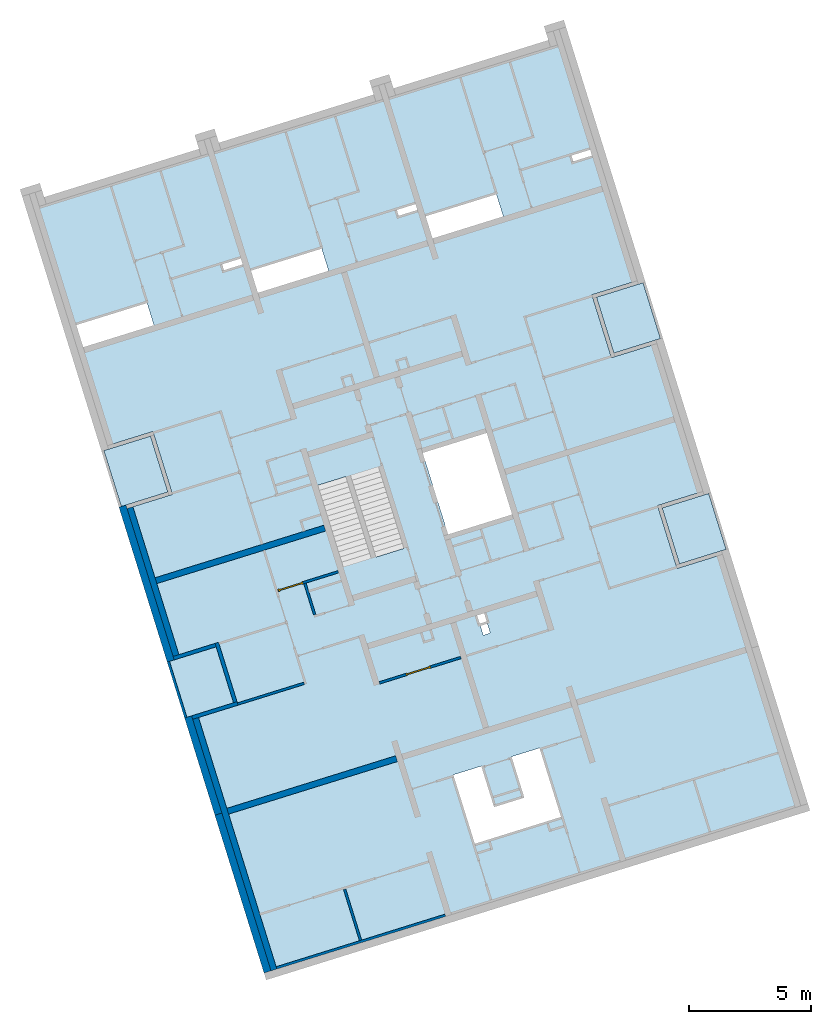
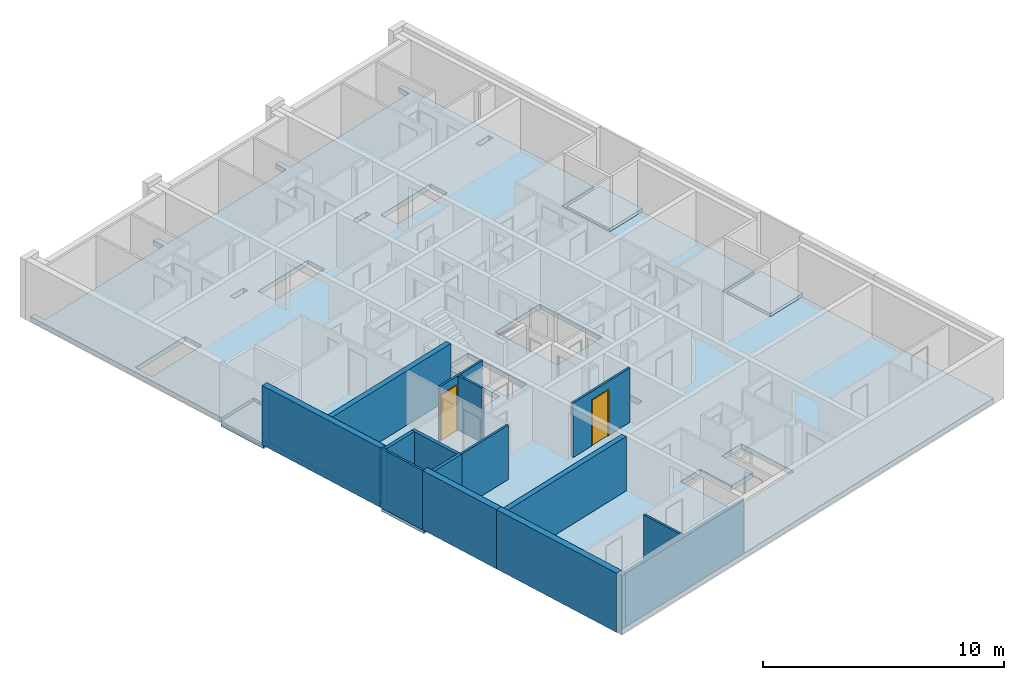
# One storey, part 1 of 12: 17 walls, 5 slabs, 2 doors, 12 openings.
"""IFC4 building model written with IfcOpenShell, lengths in metres."""

from ifc_helpers import new_model, entity, si_unit, converted_unit, direction, frame, origin, place, context, subcontext, project, spatial, indexed_curve, outline, extrude, polygons, source, transform, mapped, material, constituent, constituent_set, type_object, type_shapes, element, fill, save


model = new_model("IFC4")

# Units and contexts
model_context = context("Model", 3, precision=1e-05, world=origin(), true_north=direction((6.12323399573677e-17, 1.0)))
body_context = subcontext(model_context, "Body", "Model", "MODEL_VIEW")
ifc_project = project(units=[si_unit("LENGTHUNIT", "METRE"), si_unit("AREAUNIT", "SQUARE_METRE"), converted_unit("PLANEANGLEUNIT", "DEGREE", entity("IfcPlaneAngleMeasure", 0.0174532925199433), si_unit("PLANEANGLEUNIT", "RADIAN"), dimensions=[0, 0, 0, 0, 0, 0, 0]), si_unit("VOLUMEUNIT", "CUBIC_METRE")], contexts=[model_context])

# Site, building, storey
site_placement = place(None, frame((13.1347999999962, 11.9886000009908, 0.0), z_axis=(0.0, 0.0, 1.0), x_axis=(0.954770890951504, 0.297342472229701, 0.0)))
site = spatial("IfcSite", under=ifc_project, at=site_placement, Name="Schiehaven", CompositionType="ELEMENT")
building_placement = place(site_placement, origin())
building = spatial("IfcBuilding", under=site, at=building_placement, Name="VORM huis", CompositionType="ELEMENT")
storey_placement = place(building_placement, frame((0.0, 0.0, 3.9)))
storey = spatial("IfcBuildingStorey", under=building, at=storey_placement, Name="01 eerste verdieping", CompositionType="ELEMENT", Elevation=3.9)

# Slab, openings
ifc_material_1 = material(Name="beton_gewapend_ihw", Category="Miscellaneous")
slab_type_1 = type_object("IfcSlabType", Name="Floor:28_FL_skelet_vloer 250mm", PredefinedType="FLOOR", material=ifc_material_1)
slab_1_placement = place(storey_placement, origin())
slab_1 = element("IfcSlab", 1, at=slab_1_placement, inside=storey, type_object=slab_type_1, material=ifc_material_1, Name="Constructieve vloer", ObjectType="Vloer", PredefinedType="FLOOR", context=body_context, shape_type="SweptSolid", body=[
    extrude(outline(indexed_curve([(-22.8156249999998, -11.3750000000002), (-12.0156249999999, -11.3750000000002), (-12.0156249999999, -9.4250000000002), (-9.31562499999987, -9.42500000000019), (-9.31562499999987, -11.3750000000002), (-2.96562499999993, -11.3750000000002), (-2.96562499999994, -9.42500000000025), (-0.265624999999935, -9.42500000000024), (-0.265624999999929, -11.3750000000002), (10.5343750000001, -11.3750000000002), (10.5343750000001, -11.1249999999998), (9.934375, -11.1249999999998), (9.934375, -3.87499999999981), (10.534375, -3.87499999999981), (10.534375, -3.62499999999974), (9.93437499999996, -3.62499999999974), (9.93437499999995, 3.62500000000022), (10.5343749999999, 3.62500000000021), (10.534375, 3.87500000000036), (9.93437499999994, 3.87500000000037), (9.93437499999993, 11.1250000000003), (10.5343749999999, 11.1250000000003), (10.5343749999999, 11.3750000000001), (-0.265625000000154, 11.3750000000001), (-0.265625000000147, 9.42499999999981), (-2.96562500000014, 9.4249999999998), (-2.96562500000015, 11.3749999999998), (-9.31562500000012, 11.3749999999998), (-9.31562500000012, 9.42499999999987), (-12.0156250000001, 9.42499999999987), (-12.0156250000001, 11.3749999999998), (-22.8156249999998, 11.3749999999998), (-22.8156249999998, -11.3750000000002)], self_intersect=False), holes=[indexed_curve([(-7.89062500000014, -3.62500000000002), (-7.89062500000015, -0.875000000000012), (-4.39062500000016, -0.875000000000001), (-4.39062500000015, -3.62500000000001), (-7.89062500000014, -3.62500000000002)], self_intersect=False), indexed_curve([(-4.600625, 2.22499999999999), (-4.600625, 1.02499999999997), (-7.900625, 1.02499999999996), (-7.90062500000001, 2.22499999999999), (-4.600625, 2.22499999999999)], self_intersect=False), indexed_curve([(-7.68062500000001, 3.62499999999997), (-4.38062500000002, 3.62499999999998), (-4.38062500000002, 2.425), (-7.68062500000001, 2.42499999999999), (-7.68062500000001, 3.62499999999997)], self_intersect=False), indexed_curve([(-11.415625, -1.02499999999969), (-11.415625, -1.32499999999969), (-12.265625, -1.32499999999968), (-12.265625, -1.02499999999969), (-11.415625, -1.02499999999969)], self_intersect=False), indexed_curve([(5.18437499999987, -2.82499999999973), (5.43437499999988, -2.82499999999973), (5.43437499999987, -3.62499999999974), (5.18437499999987, -3.62499999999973), (5.18437499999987, -2.82499999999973)], self_intersect=False), indexed_curve([(5.18437499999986, -10.3249999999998), (5.43437499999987, -10.3249999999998), (5.43437499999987, -11.1249999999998), (5.18437499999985, -11.1249999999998), (5.18437499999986, -10.3249999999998)], self_intersect=False), indexed_curve([(5.18437499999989, 4.67500000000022), (5.4343749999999, 4.67500000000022), (5.43437499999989, 3.87500000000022), (5.18437499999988, 3.87500000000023), (5.18437499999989, 4.67500000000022)], self_intersect=False), indexed_curve([(4.83437499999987, 3.62500000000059), (4.83437499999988, 0.587000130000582), (3.88437499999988, 0.587000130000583), (3.88437499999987, 3.62500000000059), (4.83437499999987, 3.62500000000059)], self_intersect=False), indexed_curve([(4.83437499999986, -3.87499999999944), (4.83437499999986, -6.91299986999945), (3.88437499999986, -6.91299986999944), (3.88437499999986, -3.87499999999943), (4.83437499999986, -3.87499999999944)], self_intersect=False), indexed_curve([(4.83437499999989, 11.1250000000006), (4.83437499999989, 8.08700013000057), (3.8843749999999, 8.08700013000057), (3.88437499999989, 11.1250000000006), (4.83437499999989, 11.1250000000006)], self_intersect=False), indexed_curve([(-20.3256249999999, 1.84999999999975), (-17.3656249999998, 1.84999999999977), (-17.3656249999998, 0.649999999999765), (-19.1256249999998, 0.649999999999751), (-19.1256249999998, -0.650000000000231), (-17.3656249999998, -0.650000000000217), (-17.3656249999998, -1.85000000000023), (-20.3256249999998, -1.85000000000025), (-20.3256249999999, 1.84999999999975)], self_intersect=False)]), frame((68.7500000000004, 23.1906249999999, -0.249999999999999), z_axis=(0.0, 0.0, 1.0), x_axis=(0.0, 1.0, 0.0)), (0.0, 0.0, 1.0), 0.25),
])
opening_1_placement = place(slab_1_placement, origin())
element("IfcOpeningElement", 2, at=opening_1_placement, cuts=slab_1, Name="Constructieve vloer", PredefinedType="OPENING", context=body_context, shape_type="SweptSolid", body=[
    extrude(outline(indexed_curve([(-1.75, -1.375), (1.75, -1.375), (1.75, 1.37500000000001), (-1.75, 1.37500000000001), (-1.75, -1.375)], self_intersect=False)), frame((71.0, 17.0499999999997, -0.25), z_axis=(0.0, 0.0, 1.0), x_axis=(0.0, 1.0, 0.0)), (0.0, 0.0, 1.0), 0.25),
])
opening_2_placement = place(slab_1_placement, origin())
element("IfcOpeningElement", 3, at=opening_2_placement, cuts=slab_1, Name="Constructieve vloer", PredefinedType="OPENING", context=body_context, shape_type="SweptSolid", body=[
    extrude(outline(indexed_curve([(-1.65, -0.600000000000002), (1.65000000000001, -0.599999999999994), (1.65000000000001, 0.60000000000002), (-1.65, 0.600000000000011), (-1.65, -0.600000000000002)], self_intersect=False)), frame((67.1250000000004, 16.9399999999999, -0.25), z_axis=(0.0, 0.0, 1.0), x_axis=(0.0, -1.0, 0.0)), (0.0, 0.0, 1.0), 0.25),
])
opening_3_placement = place(slab_1_placement, origin())
element("IfcOpeningElement", 4, at=opening_3_placement, cuts=slab_1, Name="Constructieve vloer", PredefinedType="OPENING", context=body_context, shape_type="SweptSolid", body=[
    extrude(outline(indexed_curve([(-0.425000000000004, -0.150000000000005), (0.425000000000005, -0.150000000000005), (0.425000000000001, 0.149999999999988), (-0.425000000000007, 0.149999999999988), (-0.425000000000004, -0.150000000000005)], self_intersect=False)), frame((69.925, 11.3499999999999, -0.25), z_axis=(0.0, 0.0, 1.0), x_axis=(0.0, -1.0, 0.0)), (0.0, 0.0, 1.0), 0.25),
])
opening_4_placement = place(slab_1_placement, origin())
element("IfcOpeningElement", 5, at=opening_4_placement, cuts=slab_1, Name="Constructieve vloer", PredefinedType="OPENING", context=body_context, shape_type="SweptSolid", body=[
    extrude(outline(indexed_curve([(-0.400000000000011, -0.125), (0.399999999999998, -0.125), (0.399999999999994, 0.125000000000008), (-0.400000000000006, 0.125000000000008), (-0.400000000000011, -0.125)], self_intersect=False)), frame((71.9750000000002, 28.4999999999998, -0.25)), (0.0, 0.0, 1.0), 0.25),
])
opening_5_placement = place(slab_1_placement, origin())
element("IfcOpeningElement", 6, at=opening_5_placement, cuts=slab_1, Name="Constructieve vloer", PredefinedType="OPENING", context=body_context, shape_type="SweptSolid", body=[
    extrude(outline(indexed_curve([(-0.399999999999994, -0.125000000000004), (0.399999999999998, -0.125000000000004), (0.399999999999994, 0.125000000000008), (-0.399999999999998, 0.125000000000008), (-0.399999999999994, -0.125000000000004)], self_intersect=False)), frame((79.4750000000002, 28.4999999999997, -0.25)), (0.0, 0.0, 1.0), 0.25),
])
opening_6_placement = place(slab_1_placement, origin())
element("IfcOpeningElement", 7, at=opening_6_placement, cuts=slab_1, Name="Constructieve vloer", PredefinedType="OPENING", context=body_context, shape_type="SweptSolid", body=[
    extrude(outline(indexed_curve([(-0.400000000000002, -0.125000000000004), (0.399999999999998, -0.125000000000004), (0.399999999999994, 0.125000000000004), (-0.399999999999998, 0.125000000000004), (-0.400000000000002, -0.125000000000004)], self_intersect=False)), frame((64.4750000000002, 28.4999999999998, -0.25)), (0.0, 0.0, 1.0), 0.25),
])
opening_7_placement = place(slab_1_placement, origin())
element("IfcOpeningElement", 8, at=opening_7_placement, cuts=slab_1, Name="Constructieve vloer", PredefinedType="OPENING", context=body_context, shape_type="SweptSolid", body=[
    extrude(outline(indexed_curve([(-0.474999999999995, -1.51899993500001), (0.475000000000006, -1.51899993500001), (0.474999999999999, 1.51899993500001), (-0.475000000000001, 1.51899993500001), (-0.474999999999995, -1.51899993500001)], self_intersect=False)), frame((66.6439999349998, 27.5499999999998, -0.25), z_axis=(0.0, 0.0, 1.0), x_axis=(0.0, -1.0, 0.0)), (0.0, 0.0, 1.0), 0.25),
])
opening_8_placement = place(slab_1_placement, origin())
element("IfcOpeningElement", 9, at=opening_8_placement, cuts=slab_1, Name="Constructieve vloer", PredefinedType="OPENING", context=body_context, shape_type="SweptSolid", body=[
    extrude(outline(indexed_curve([(-0.474999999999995, -1.51899993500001), (0.475000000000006, -1.51899993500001), (0.474999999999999, 1.51899993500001), (-0.475000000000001, 1.51899993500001), (-0.474999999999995, -1.51899993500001)], self_intersect=False)), frame((74.1439999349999, 27.5499999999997, -0.25), z_axis=(0.0, 0.0, 1.0), x_axis=(0.0, -1.0, 0.0)), (0.0, 0.0, 1.0), 0.25),
])
opening_9_placement = place(slab_1_placement, origin())
element("IfcOpeningElement", 10, at=opening_9_placement, cuts=slab_1, Name="Constructieve vloer", PredefinedType="OPENING", context=body_context, shape_type="SweptSolid", body=[
    extrude(outline(indexed_curve([(-0.474999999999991, -1.518999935), (0.475000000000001, -1.51899993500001), (0.474999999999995, 1.51899993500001), (-0.475000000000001, 1.51899993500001), (-0.474999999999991, -1.518999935)], self_intersect=False)), frame((59.1439999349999, 27.5499999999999, -0.25), z_axis=(0.0, 0.0, 1.0), x_axis=(0.0, -1.0, 0.0)), (0.0, 0.0, 1.0), 0.25),
])
opening_10_placement = place(slab_1_placement, origin())
element("IfcOpeningElement", 11, at=opening_10_placement, cuts=slab_1, Name="Constructieve vloer", PredefinedType="OPENING", context=body_context, shape_type="SweptSolid", body=[
    extrude(outline(indexed_curve([(-1.84999999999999, -1.78000000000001), (1.85000000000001, -1.78000000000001), (1.85000000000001, 1.18), (0.649999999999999, 1.18), (0.649999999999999, -0.579999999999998), (-0.649999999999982, -0.579999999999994), (-0.649999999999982, 1.18), (-1.84999999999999, 1.18), (-1.84999999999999, -1.78000000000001)], self_intersect=False)), frame((68.7500000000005, 4.64500000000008, -0.249999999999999)), (0.0, 0.0, 1.0), 0.25),
])

# Slabs
slab_type_2 = type_object("IfcSlabType", Name="Floor:28_FL_skelet_dakterrasvloer 250mm", PredefinedType="ROOF", material=ifc_material_1)
slab_2_placement = place(storey_placement, origin())
element("IfcSlab", 12, at=slab_2_placement, inside=storey, type_object=slab_type_2, material=ifc_material_1, Name="Begaanbare dakvloer", ObjectType="Vloer", PredefinedType="ROOF", context=body_context, shape_type="SweptSolid", body=[
    extrude(outline(indexed_curve([(-1.20000000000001, -1.00000000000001), (1.20000000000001, -1.00000000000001), (1.20000000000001, 1.00000000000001), (-1.20000000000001, 1.00000000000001), (-1.20000000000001, -1.00000000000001)], self_intersect=False)), frame((79.3250000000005, 12.525, 0.0), z_axis=(0.0, 0.0, -1.0), x_axis=(0.0, 1.0, 0.0)), (0.0, 0.0, 1.0), 0.25),
])
slab_3_placement = place(storey_placement, origin())
element("IfcSlab", 13, at=slab_3_placement, inside=storey, type_object=slab_type_2, material=ifc_material_1, Name="Begaanbare dakvloer", ObjectType="Vloer", PredefinedType="ROOF", context=body_context, shape_type="SweptSolid", body=[
    extrude(outline(indexed_curve([(-1.2, -0.999999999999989), (1.2, -0.999999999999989), (1.2, 1.00000000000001), (-1.2, 1.00000000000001), (-1.2, -0.999999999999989)], self_intersect=False)), frame((79.3250000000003, 21.5749999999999, 0.0), z_axis=(0.0, 0.0, -1.0), x_axis=(0.0, 1.0, 0.0)), (0.0, 0.0, 1.0), 0.25),
])
slab_4_placement = place(storey_placement, origin())
element("IfcSlab", 14, at=slab_4_placement, inside=storey, type_object=slab_type_2, material=ifc_material_1, Name="Begaanbare dakvloer", ObjectType="Vloer", PredefinedType="ROOF", context=body_context, shape_type="SweptSolid", body=[
    extrude(outline(indexed_curve([(-1.19999999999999, -1.0), (1.2, -1.0), (1.2, 1.0), (-1.2, 1.0), (-1.19999999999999, -1.0)], self_intersect=False)), frame((58.1750000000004, 21.5749999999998, 0.0), z_axis=(0.0, 0.0, -1.0), x_axis=(0.0, 1.0, 0.0)), (0.0, 0.0, 1.0), 0.25),
])
slab_5_placement = place(storey_placement, origin())
element("IfcSlab", 15, at=slab_5_placement, inside=storey, type_object=slab_type_2, material=ifc_material_1, Name="Begaanbare dakvloer", ObjectType="Vloer", PredefinedType="ROOF", context=body_context, shape_type="SweptSolid", body=[
    extrude(outline(indexed_curve([(-1.20000000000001, -0.999999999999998), (1.19999999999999, -0.999999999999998), (1.20000000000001, 1.00000000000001), (-1.19999999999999, 1.00000000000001), (-1.20000000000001, -0.999999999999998)], self_intersect=False)), frame((58.1750000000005, 12.5249999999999, 0.0), z_axis=(0.0, 0.0, -1.0), x_axis=(0.0, 1.0, 0.0)), (0.0, 0.0, 1.0), 0.25),
])

# Walls
wall_type_1 = type_object("IfcWallType", Name="Basic Wall:28_WA_skelet_wand 250mm_gen", PredefinedType="STANDARD")
wall_1_placement = place(storey_placement, frame((57.5000000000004, 0.374999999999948, 0.0), z_axis=(0.0, 0.0, 1.0), x_axis=(0.0, 1.0, 0.0)))
element("IfcWall", 16, at=wall_1_placement, inside=storey, type_object=wall_type_1, material=ifc_material_1, Name="Constructieve wand", ObjectType="Wand", PredefinedType="NOTDEFINED", context=body_context, shape_type="SweptSolid", body=[
    extrude(outline(indexed_curve([(10.7999999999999, 0.124999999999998), (0.0, 0.124999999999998), (0.0, -0.124999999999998), (10.7999999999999, -0.124999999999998), (10.7999999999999, 0.124999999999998)], self_intersect=False)), origin(), (0.0, 0.0, 1.0), 2.75),
])
wall_2_placement = place(storey_placement, frame((57.5000000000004, 13.8749999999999, 0.0), z_axis=(0.0, 0.0, 1.0), x_axis=(0.0, 1.0, 0.0)))
element("IfcWall", 17, at=wall_2_placement, inside=storey, type_object=wall_type_1, material=ifc_material_1, Name="Constructieve wand", ObjectType="Wand", PredefinedType="NOTDEFINED", context=body_context, shape_type="SweptSolid", body=[
    extrude(outline(indexed_curve([(6.34999999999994, 0.124999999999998), (-1.70530256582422e-16, 0.124999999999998), (1.70530256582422e-16, -0.124999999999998), (6.34999999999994, -0.124999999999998), (6.34999999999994, 0.124999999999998)], self_intersect=False)), origin(), (0.0, 0.0, 1.0), 2.75),
])
ifc_material_2 = material(Name="ntb_ntb_ntb", Category="Miscellaneous")
wall_type_2 = type_object("IfcWallType", Name="Basic Wall:21_WA_gevel_binnenspouwwand 100mm_gen", PredefinedType="STANDARD")
wall_3_placement = place(storey_placement, frame((64.8750000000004, 0.425000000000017, 0.0), z_axis=(0.0, 0.0, 1.0), x_axis=(-1.0, 0.0, 0.0)))
element("IfcWall", 18, at=wall_3_placement, inside=storey, type_object=wall_type_2, material=ifc_material_2, Name="Binnenspouwblad", ObjectType="Wand", PredefinedType="NOTDEFINED", context=body_context, shape_type="SweptSolid", body=[
    extrude(outline(indexed_curve([(7.24999999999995, 0.05), (1.85806403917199e-16, 0.05), (-1.85806403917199e-16, -0.05), (7.24999999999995, -0.05), (7.24999999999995, 0.05)], self_intersect=False)), origin(), (0.0, 0.0, 1.0), 2.75),
])
wall_type_3 = type_object("IfcWallType", Name="Basic Wall: 300mm_gen", PredefinedType="STANDARD")
wall_4_placement = place(storey_placement, frame((57.2250000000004, 0.375000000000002, 0.0), z_axis=(0.0, 0.0, 1.0), x_axis=(0.0, 1.0, 0.0)))
element("IfcWall", 19, at=wall_4_placement, inside=storey, type_object=wall_type_3, material=ifc_material_2, Name="Gevelwand", ObjectType="Wand", PredefinedType="NOTDEFINED", context=body_context, shape_type="SweptSolid", body=[
    extrude(outline(indexed_curve([(6.77500000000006, 0.150000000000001), (2.15009718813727e-17, 0.150000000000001), (-2.15009718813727e-17, -0.150000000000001), (6.77500000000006, -0.15), (6.77500000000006, 0.150000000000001)], self_intersect=False)), origin(), (0.0, 0.0, 1.0), 3.0),
])
wall_5_placement = place(storey_placement, frame((57.2250000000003, 13.7249999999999, 0.0), z_axis=(0.0, 0.0, 1.0), x_axis=(0.0, 1.0, 0.0)))
element("IfcWall", 20, at=wall_5_placement, inside=storey, type_object=wall_type_3, material=ifc_material_2, Name="Gevelwand", ObjectType="Wand", PredefinedType="NOTDEFINED", context=body_context, shape_type="SweptSolid", body=[
    extrude(outline(indexed_curve([(6.6499999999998, 0.150000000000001), (3.90809189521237e-16, 0.150000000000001), (-3.90809189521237e-16, -0.150000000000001), (6.6499999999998, -0.150000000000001), (6.6499999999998, 0.150000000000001)], self_intersect=False)), origin(), (0.0, 0.0, 1.0), 3.0),
])
wall_6_placement = place(storey_placement, frame((57.2250000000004, 7.15000000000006, 0.0), z_axis=(0.0, 0.0, 1.0), x_axis=(0.0, 1.0, 0.0)))
element("IfcWall", 21, at=wall_6_placement, inside=storey, type_object=wall_type_3, material=ifc_material_2, Name="Gevelwand", ObjectType="Wand", PredefinedType="NOTDEFINED", context=body_context, shape_type="SweptSolid", body=[
    extrude(outline(indexed_curve([(4.17499999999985, 0.150000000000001), (6.22486493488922e-16, 0.150000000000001), (4.60380635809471e-16, -0.150000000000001), (4.17499999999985, -0.150000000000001), (4.17499999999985, 0.150000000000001)], self_intersect=False)), origin(), (0.0, 0.0, 1.0), 3.0),
])
wall_type_4 = type_object("IfcWallType", Name="Basic Wall:22_WA_afbouw_binnenwand 250mm_gen", PredefinedType="STANDARD")
for number, where, z_axis, x_axis in (
    (22, (64.8750000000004, 17.05, 0.0), (0.0, 0.0, 1.0), (-1.0, 0.0, 0.0)),
    (23, (64.8750000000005, 7.15000000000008, 0.0), (0.0, 0.0, 1.0), (-1.0, 0.0, 0.0)),
):
    element("IfcWall", number, at=place(storey_placement, frame(where, z_axis=z_axis, x_axis=x_axis)), inside=storey, type_object=wall_type_4, material=ifc_material_2, Name="Binnenwand", ObjectType="Wand", PredefinedType="NOTDEFINED", context=body_context, shape_type="SweptSolid", body=[
        extrude(outline(indexed_curve([(7.24999999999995, 0.125), (2.64740926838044e-16, 0.125), (-2.64740926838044e-16, -0.125), (7.24999999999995, -0.125), (7.24999999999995, 0.125)], self_intersect=False)), origin(), (0.0, 0.0, 1.0), 2.75),
    ])
wall_type_5 = type_object("IfcWallType", Name="Basic Wall:22_WA_afbouw_binnenwand 100mm_gen", PredefinedType="STANDARD")
wall_7_placement = place(storey_placement, frame((62.1750000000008, 11.225, 0.0), z_axis=(0.0, 0.0, 1.0), x_axis=(-1.0, 0.0, 0.0)))
element("IfcWall", 24, at=wall_7_placement, inside=storey, type_object=wall_type_5, material=ifc_material_2, Name="Binnenwand", ObjectType="Wand", PredefinedType="NOTDEFINED", context=body_context, shape_type="SweptSolid", body=[
    extrude(outline(indexed_curve([(2.85000000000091, 0.0499999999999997), (-6.50379858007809e-16, 0.0499999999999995), (6.50379858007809e-16, -0.0499999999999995), (2.85000000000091, -0.0499999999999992), (2.85000000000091, 0.0499999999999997)], self_intersect=False)), origin(), (0.0, 0.0, 1.0), 2.75),
])

# Wall, opening, door
wall_8_placement = place(storey_placement, frame((62.2750000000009, 15.175, 0.0)))
wall_8 = element("IfcWall", 25, at=wall_8_placement, inside=storey, type_object=wall_type_5, material=ifc_material_2, Name="Binnenwand", ObjectType="Wand", PredefinedType="NOTDEFINED", context=body_context, shape_type="Tessellation", body=[
    polygons([(1.07500000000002, -0.0499999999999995, 2.34999999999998), (1.07500000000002, -0.0499999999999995, -5.41433564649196e-16), (1.1, -0.0499999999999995, 0.0), (1.2, -0.0499999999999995, 0.0), (2.59999999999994, -0.0499999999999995, -5.41433564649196e-16), (2.59999999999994, -0.0499999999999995, 2.75), (1.2, -0.0499999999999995, 2.75), (1.1, -0.0499999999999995, 2.75), (-1.45611628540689e-15, -0.0499999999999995, 2.75), (-1.45611628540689e-15, -0.0499999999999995, -5.41433564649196e-16), (0.0250000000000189, -0.0499999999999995, -5.41433564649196e-16), (0.0250000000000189, -0.0499999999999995, 2.34999999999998), (2.59999999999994, 0.0499999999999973, -5.41433564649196e-16), (1.07500000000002, 0.0499999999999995, -5.41433564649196e-16), (1.07500000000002, 0.0499999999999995, 2.34999999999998), (0.0250000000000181, 0.0499999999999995, 2.34999999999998), (0.0250000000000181, 0.0499999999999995, -5.41433564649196e-16), (-2.21032651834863e-15, 0.0499999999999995, -5.41433564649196e-16), (-2.21032651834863e-15, 0.0499999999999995, 2.75), (2.59999999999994, 0.0499999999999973, 2.75)], [[[1, 2, 3, 4, 5, 6, 7, 8, 9, 10, 11, 12]], [[13, 14, 15, 16, 17, 18, 19, 20]], [[11, 10, 18, 17]], [[6, 5, 13, 20]], [[9, 8, 7, 6, 20, 19]], [[17, 16, 12, 11]], [[15, 14, 2, 1]], [[16, 15, 1, 12]], [[10, 9, 19, 18]], [[5, 4, 3, 2, 14, 13]]], closed=True),
])
opening_11_placement = place(wall_8_placement, frame((1.07500000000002, 0.0499999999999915, 0.0)))
opening_11 = element("IfcOpeningElement", 26, at=opening_11_placement, cuts=wall_8, Name="Binnendeur", PredefinedType="OPENING", context=body_context, shape_type="SweptSolid", body=[
    extrude(outline(indexed_curve([(2.34999999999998, 1.05), (0.0, 1.05), (0.0, -5.61487760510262e-30), (2.34999999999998, -5.61487760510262e-30), (2.34999999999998, 1.05)], self_intersect=False)), frame((0.0, 0.0, 0.0), z_axis=(0.0, -1.0, 0.0), x_axis=(0.0, 0.0, 1.0)), (0.0, 0.0, 1.0), 0.1),
])
ifc_material_3 = material(Name="PD_a_binnenwandopeningen", Category="Miscellaneous")
ifc_constituent_1 = constituent(ifc_material_3, Name="PD_a_binnenwandopeningen", Category="Miscellaneous")
ifc_material_4 = material(Name="metaal_aluminium_ntb", Category="Miscellaneous")
ifc_constituent_2 = constituent(ifc_material_4, Name="metaal_aluminium_ntb", Category="Miscellaneous")
ifc_constituent_set_1 = constituent_set(constituents=[ifc_constituent_1, ifc_constituent_2])
ifc_constituent_3 = constituent(ifc_material_3, Name="PD_a_binnenwandopeningen", Category="Miscellaneous")
ifc_constituent_4 = constituent(ifc_material_4, Name="Panel", Category="Miscellaneous")
ifc_constituent_set_2 = constituent_set(constituents=[ifc_constituent_3, ifc_constituent_4])
door_type = type_object("IfcDoorType", Name="32_DO_binnendeur enkel:binnendeur", OperationType="REVOLVING", PredefinedType="DOOR", material=ifc_constituent_set_2)
shared_shape = source(origin(), body_context, "Body", "SweptSolid", [
    extrude(outline(indexed_curve([(-1.16249999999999, -0.525000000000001), (1.18749999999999, -0.525), (1.18749999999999, 0.525), (-1.16249999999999, 0.525), (-1.16249999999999, 0.475), (1.13749999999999, 0.475), (1.13749999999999, -0.475), (-1.16249999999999, -0.475), (-1.16249999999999, -0.525000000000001)], self_intersect=False)), frame((0.525000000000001, 0.0, 1.16249999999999), z_axis=(0.0, 1.0, 0.0), x_axis=(0.0, 0.0, 1.0)), (0.0, 0.0, 1.0), 0.1),
    extrude(outline(indexed_curve([(-0.025, -0.475), (0.025, -0.475), (0.025, 0.475), (-0.025, 0.475), (-0.025, -0.475)], self_intersect=False)), frame((0.525000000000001, 0.0499999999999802, 0.0), z_axis=(0.0, 0.0, 1.0), x_axis=(0.0, 1.0, 0.0)), (0.0, 0.0, 1.0), 2.29999999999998),
])
type_shapes(door_type, [shared_shape])
door_1_placement = place(opening_11_placement, frame((0.0, 0.0, 0.0), z_axis=(0.0, 0.0, 1.0), x_axis=(-1.0, 0.0, 0.0)))
door_1 = element("IfcDoor", 27, at=door_1_placement, inside=storey, type_object=door_type, material=ifc_constituent_set_1, Name="Binnendeur", ObjectType="Deur", OperationType="REVOLVING", OverallHeight=2.34999999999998, OverallWidth=1.05, PredefinedType="DOOR", context=body_context, shape_type="MappedRepresentation", body=[
    mapped(shared_shape, transform((0.0, 0.0, 0.0), scale=1.0)),
])
fill(opening_11, door_1)

# Wall
wall_9_placement = place(storey_placement, frame((63.4250000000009, 15.1249999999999, 0.0), z_axis=(0.0, 0.0, 1.0), x_axis=(0.0, -1.0, 0.0)))
element("IfcWall", 28, at=wall_9_placement, inside=storey, type_object=wall_type_5, material=ifc_material_2, Name="Binnenwand", ObjectType="Wand", PredefinedType="NOTDEFINED", context=body_context, shape_type="SweptSolid", body=[
    extrude(outline(indexed_curve([(1.3500000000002, 0.0499999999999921), (-4.5052809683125e-16, 0.0499999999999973), (4.5052809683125e-16, -0.0499999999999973), (1.3500000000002, -0.0500000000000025), (1.3500000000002, 0.0499999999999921)], self_intersect=False)), origin(), (0.0, 0.0, 1.0), 2.75),
])

# Wall, opening, door
wall_10_placement = place(storey_placement, frame((68.6249999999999, 10.3249999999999, 0.0), z_axis=(0.0, 0.0, 1.0), x_axis=(-1.0, 0.0, 0.0)))
wall_10 = element("IfcWall", 29, at=wall_10_placement, inside=storey, type_object=wall_type_5, material=ifc_material_2, Name="Binnenwand", ObjectType="Wand", PredefinedType="NOTDEFINED", context=body_context, shape_type="Tessellation", body=[
    polygons([(3.50000000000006, -0.0499999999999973, -5.41433564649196e-16), (3.50000000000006, -0.0499999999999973, 2.75), (1.22391284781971e-15, -0.0499999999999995, 2.75), (1.22391284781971e-15, -0.0499999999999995, -5.41433564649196e-16), (1.29999999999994, -0.0499999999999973, -5.41433564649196e-16), (1.29999999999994, -0.0499999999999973, 2.34999999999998), (2.34999999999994, -0.0499999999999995, 2.34999999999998), (2.34999999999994, -0.0499999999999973, -5.41433564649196e-16), (3.50000000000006, 0.0500000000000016, 2.75), (3.50000000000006, 0.0500000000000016, -5.41433564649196e-16), (2.34999999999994, 0.0499999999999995, -5.41433564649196e-16), (2.34999999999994, 0.0499999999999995, 2.34999999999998), (1.29999999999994, 0.0500000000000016, 2.34999999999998), (1.29999999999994, 0.0500000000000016, -5.41433564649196e-16), (8.7812334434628e-16, 0.0499999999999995, -5.41433564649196e-16), (8.7812334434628e-16, 0.0499999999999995, 2.75)], [[[1, 2, 3, 4, 5, 6, 7, 8]], [[9, 10, 11, 12, 13, 14, 15, 16]], [[4, 15, 14, 5]], [[2, 1, 10, 9]], [[3, 2, 9, 16]], [[4, 3, 16, 15]], [[7, 12, 11, 8]], [[13, 6, 5, 14]], [[12, 7, 6, 13]], [[10, 1, 8, 11]]], closed=True),
])
opening_12_placement = place(wall_10_placement, frame((1.29999999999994, -0.0500000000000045, 0.0)))
opening_12 = element("IfcOpeningElement", 30, at=opening_12_placement, cuts=wall_10, Name="Binnendeur", PredefinedType="OPENING", context=body_context, shape_type="SweptSolid", body=[
    extrude(outline(indexed_curve([(2.34999999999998, 1.05), (0.0, 1.05), (0.0, -2.42803587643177e-30), (2.34999999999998, -2.42803587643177e-30), (2.34999999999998, 1.05)], self_intersect=False)), frame((0.0, 0.0, 0.0), z_axis=(0.0, 1.0, 0.0), x_axis=(0.0, 0.0, 1.0)), (0.0, 0.0, 1.0), 0.1),
])
ifc_constituent_5 = constituent(ifc_material_3, Name="PD_a_binnenwandopeningen", Category="Miscellaneous")
ifc_constituent_6 = constituent(ifc_material_4, Name="metaal_aluminium_ntb", Category="Miscellaneous")
ifc_constituent_set_3 = constituent_set(constituents=[ifc_constituent_5, ifc_constituent_6])
door_2_placement = place(opening_12_placement, origin())
door_2 = element("IfcDoor", 31, at=door_2_placement, inside=storey, type_object=door_type, material=ifc_constituent_set_3, Name="Binnendeur", ObjectType="Deur", OperationType="REVOLVING", OverallHeight=2.34999999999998, OverallWidth=1.05, PredefinedType="DOOR", context=body_context, shape_type="MappedRepresentation", body=[
    mapped(shared_shape, transform((0.0, 0.0, 0.0), scale=1.0)),
])
fill(opening_12, door_2)

# Walls
wall_11_placement = place(storey_placement, frame((61.2500000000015, 0.474999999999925, 0.0), z_axis=(0.0, 0.0, 1.0), x_axis=(0.0, 1.0, 0.0)))
element("IfcWall", 32, at=wall_11_placement, inside=storey, type_object=wall_type_5, material=ifc_material_2, Name="Binnenwand", ObjectType="Wand", PredefinedType="NOTDEFINED", context=body_context, shape_type="SweptSolid", body=[
    extrude(outline(indexed_curve([(2.20000000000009, 0.0499999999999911), (-6.95041434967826e-18, 0.0499999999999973), (6.95041434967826e-18, -0.0499999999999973), (2.20000000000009, -0.0500000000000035), (2.20000000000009, 0.0499999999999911)], self_intersect=False)), origin(), (0.0, 0.0, 1.0), 2.75),
])
wall_type_6 = type_object("IfcWallType", Name="Basic Wall: 150mm_gen", PredefinedType="STANDARD")
wall_12_placement = place(storey_placement, frame((57.3750000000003, 11.2499999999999, 0.0)))
element("IfcWall", 33, at=wall_12_placement, inside=storey, type_object=wall_type_6, material=ifc_material_2, Name="Gevelwand", ObjectType="Wand", PredefinedType="NOTDEFINED", context=body_context, shape_type="SweptSolid", body=[
    extrude(outline(indexed_curve([(1.95, 0.0750000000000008), (1.45750732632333e-16, 0.0750000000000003), (-1.45750732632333e-16, -0.0750000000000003), (1.95, -0.0749999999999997), (1.95, 0.0750000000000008)], self_intersect=False)), origin(), (0.0, 0.0, 1.0), 2.75),
])
wall_13_placement = place(storey_placement, frame((59.2500000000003, 11.3249999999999, 0.0), z_axis=(0.0, 0.0, 1.0), x_axis=(0.0, 1.0, 0.0)))
element("IfcWall", 34, at=wall_13_placement, inside=storey, type_object=wall_type_6, material=ifc_material_2, Name="Gevelwand", ObjectType="Wand", PredefinedType="NOTDEFINED", context=body_context, shape_type="SweptSolid", body=[
    extrude(outline(indexed_curve([(2.55000000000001, 0.0749999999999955), (3.94811578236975e-16, 0.0750000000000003), (-3.94811578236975e-16, -0.0750000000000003), (2.55, -0.075000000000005), (2.55000000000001, 0.0749999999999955)], self_intersect=False)), origin(), (0.0, 0.0, 1.0), 2.75),
])
wall_14_placement = place(storey_placement, frame((59.1750000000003, 13.7999999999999, 0.0), z_axis=(0.0, 0.0, 1.0), x_axis=(-1.0, 0.0, 0.0)))
element("IfcWall", 35, at=wall_14_placement, inside=storey, type_object=wall_type_6, material=ifc_material_2, Name="Gevelwand", ObjectType="Wand", PredefinedType="NOTDEFINED", context=body_context, shape_type="SweptSolid", body=[
    extrude(outline(indexed_curve([(1.8, 0.0749999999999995), (3.94811578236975e-16, 0.0750000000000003), (-3.94811578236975e-16, -0.0750000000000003), (1.8, -0.0750000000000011), (1.8, 0.0749999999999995)], self_intersect=False)), origin(), (0.0, 0.0, 1.0), 2.75),
])
wall_type_7 = type_object("IfcWallType", Name="Basic Wall: 100mm_gen", PredefinedType="STANDARD")
wall_15_placement = place(storey_placement, frame((57.1250000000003, 11.3249999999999, 0.0), z_axis=(0.0, 0.0, 1.0), x_axis=(0.0, 1.0, 0.0)))
element("IfcWall", 36, at=wall_15_placement, inside=storey, type_object=wall_type_7, material=ifc_material_2, Name="Gevelwand", ObjectType="Wand", PredefinedType="NOTDEFINED", context=body_context, shape_type="SweptSolid", body=[
    extrude(outline(indexed_curve([(2.4, 0.0499999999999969), (1.89237883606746e-16, 0.0499999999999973), (-1.89237883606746e-16, -0.0499999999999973), (2.4, -0.0499999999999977), (2.4, 0.0499999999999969)], self_intersect=False)), origin(), (0.0, 0.0, 1.0), 3.0),
])

save(model, "model.ifc")
